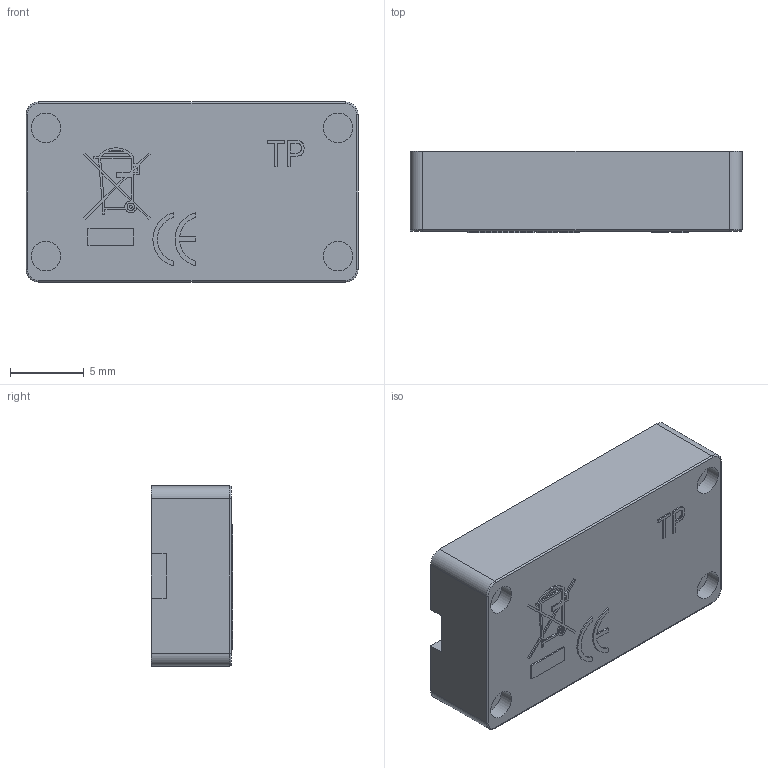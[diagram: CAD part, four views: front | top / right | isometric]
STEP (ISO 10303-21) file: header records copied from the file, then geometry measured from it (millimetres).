
FILE_DESCRIPTION(/* description */ ('STEP AP242 Edition 2','CAx-IF Rec.Pracs.---Representation and Presentation of Product Manufacturing Information (PMI)---4.0---2014-10-13','CAx-IF Rec.Pracs.---3D Tessellated Geometry---0.4---2014-09-14','2;1','CAx-IF Rec.Pracs.---User Defined Attributes---1.5---2016-08-15'),/* implementation_level */ '2;1');
FILE_NAME(/* name */ 'fbe557fd-734f-459e-8c0b-454830376cf0',/* time_stamp */ '2026-11-04T05:15:25Z',/* author */ (''),/* organization */ (''),/* preprocessor_version */ 'ST-DEVELOPER v20',/* originating_system */ 'ONSHAPE BY PTC INC, 1.223',/* authorisation */ ' ');
FILE_SCHEMA (('AP242_MANAGED_MODEL_BASED_3D_ENGINEERING_MIM_LF { 1 0 10303 442 3 1 4 }'));
Length unit declared in the file: metre
Products named in the file (1): SG90 - Micro Servo 9g - Tower Pro.1_Pe‡a
Bounding box: 22.5 x 5.5 x 12.2 mm (x, y, z)
Volume: 1461.5 mm3; surface area: 950.7 mm2
Topology: 1 solids, 1 shells, 149 faces, 370 edges, 244 vertices
Faces by surface type: plane 115, cylinder 25, bspline 5, torus 4
Full cylindrical faces by diameter (mm): 0.2 x1, 0.5 x1, 2 x4
Entity records: 4664 total; most frequent: CARTESIAN_POINT 1091, ORIENTED_EDGE 728, DIRECTION 698, EDGE_CURVE 364, LINE 300, VECTOR 300, VERTEX_POINT 244, AXIS2_PLACEMENT_3D 199
